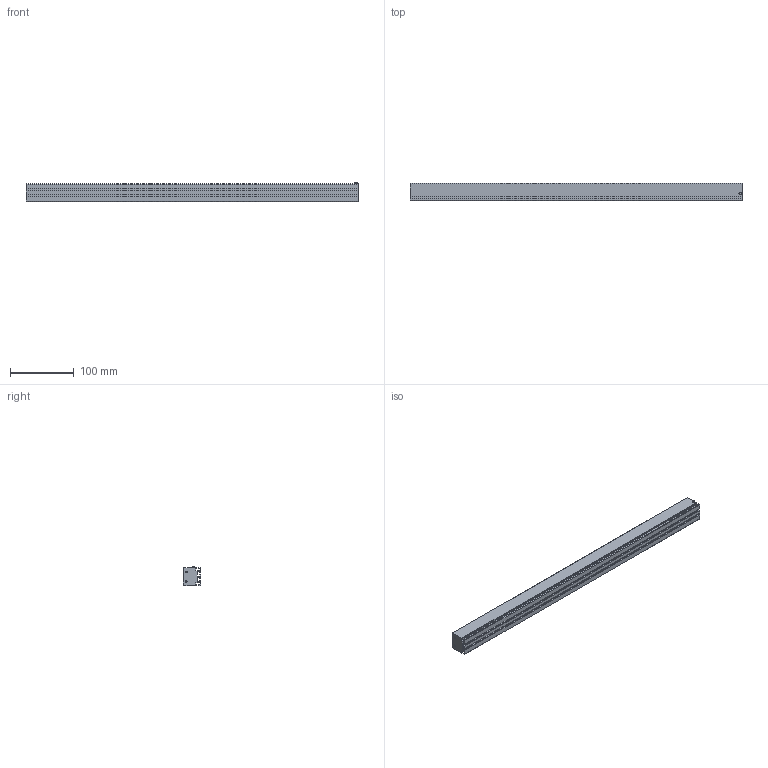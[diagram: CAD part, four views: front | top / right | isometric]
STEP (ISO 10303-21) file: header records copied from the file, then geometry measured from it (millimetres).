
FILE_DESCRIPTION (( 'STEP AP203' ), '1' );
FILE_NAME ('LRD-B4-520.STEP', '2022-08-22T06:56:45', ( 'TNT' ), ( '' ), 'SwSTEP 2.0', 'SolidWorks 2018', '' );
FILE_SCHEMA (( 'CONFIG_CONTROL_DESIGN' ));
Length unit declared in the file: millimetre
Products named in the file (1): LRD-B4-520
Bounding box: 520 x 27.7 x 30.6 mm (x, y, z)
Volume: 340712 mm3; surface area: 94849.9 mm2
Topology: 1 solids, 1 shells, 66 faces, 178 edges, 112 vertices
Faces by surface type: plane 48, cylinder 10, cone 8
Entity records: 2059 total; most frequent: CARTESIAN_POINT 349, ORIENTED_EDGE 340, DIRECTION 324, EDGE_CURVE 170, LINE 150, VECTOR 150, VERTEX_POINT 112, AXIS2_PLACEMENT_3D 87
